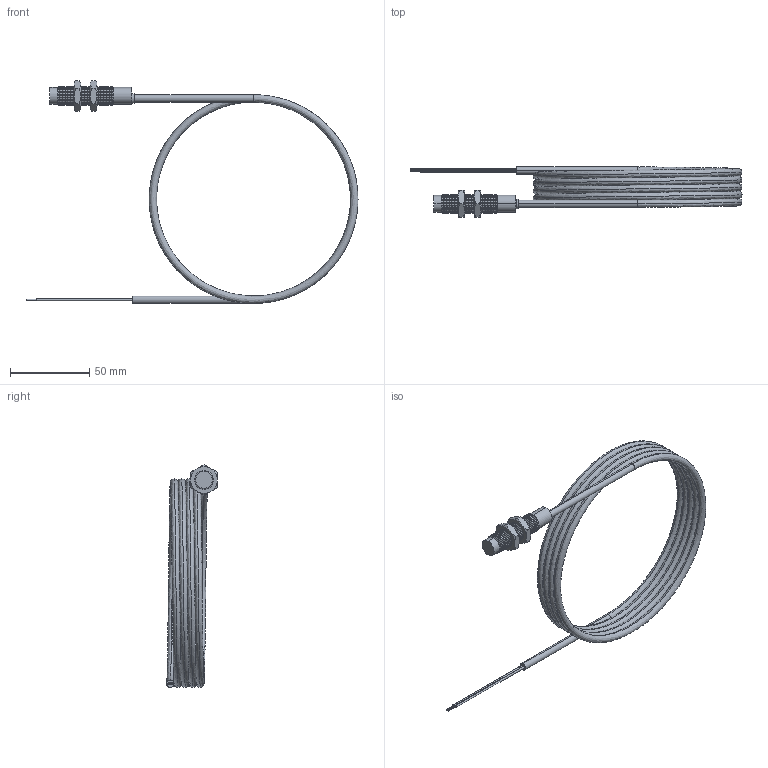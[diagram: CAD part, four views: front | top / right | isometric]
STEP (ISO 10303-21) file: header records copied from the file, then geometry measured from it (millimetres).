
FILE_DESCRIPTION (( 'STEP AP203' ), '1' );
FILE_NAME ('90-XXXX-008.STEP', '2015-10-28T13:09:51', ( 'Sam' ), ( 'Spade' ), 'SwSTEP 2.0', 'SolidWorks 2002296', '' );
FILE_SCHEMA (( 'CONFIG_CONTROL_DESIGN' ));
Length unit declared in the file: inch
Products named in the file (13): 90-XXXX-008; Imported79; Imported78; Imported73; Imported72; Imported71; Imported70; Imported69; Imported68; Imported77; Imported76; Imported75; Imported74
Assembly tree (12 placements, depth 2):
  90-XXXX-008
    Imported78
    Imported70
    Imported73
    Imported68
    Imported72
    Imported76
    Imported79
    Imported69
    Imported71
    Imported77
    Imported75
    Imported74
Bounding box: 209.36 x 32.04 x 140.61 mm (x, y, z)
Volume: 40683.8 mm3; surface area: 34275.1 mm2
Topology: 12 solids, 12 shells, 355 faces, 708 edges, 380 vertices
Faces by surface type: cone 208, cylinder 96, plane 39, bspline 12
Entity records: 11978 total; most frequent: CARTESIAN_POINT 3191, DIRECTION 1728, ORIENTED_EDGE 1416, AXIS2_PLACEMENT_3D 718, EDGE_CURVE 708, VERTEX_POINT 380, EDGE_LOOP 362, CIRCLE 360
